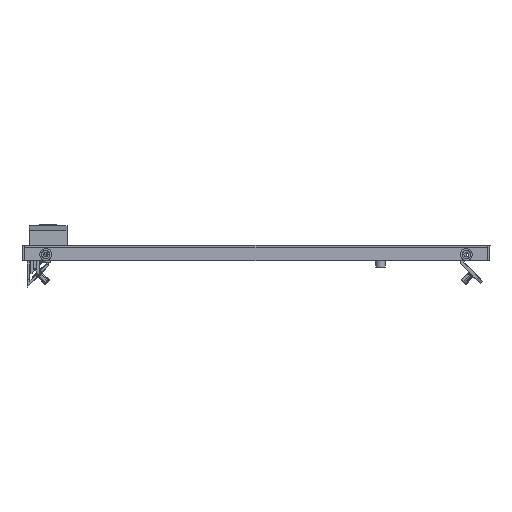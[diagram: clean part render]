
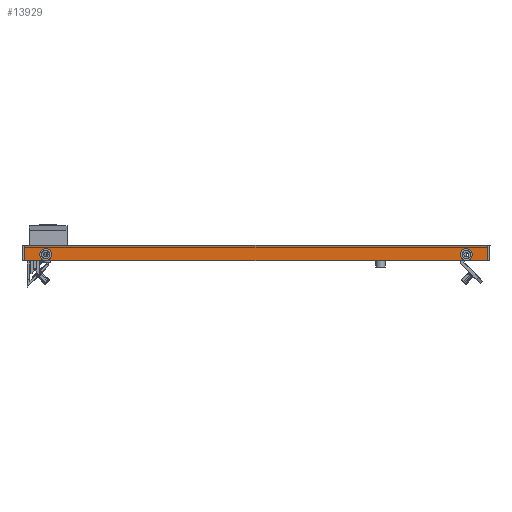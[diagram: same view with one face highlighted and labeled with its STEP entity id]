
A CAD part, front view. The second image highlights one B-rep face of the part: STEP entity #13929.
In plain terms, the highlighted planar face has unit normal (0, -1, 0).
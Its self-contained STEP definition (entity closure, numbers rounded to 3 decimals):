
#87 = DIRECTION ( 'NONE',  ( 1., 0., 0. ) ) ;
#1222 = DIRECTION ( 'NONE',  ( -0.886, 0., -0.463 ) ) ;
#1551 = DIRECTION ( 'NONE',  ( 0., 0., -1. ) ) ;
#1768 = ORIENTED_EDGE ( 'NONE', *, *, #25218, .T. ) ;
#2145 = CARTESIAN_POINT ( 'NONE',  ( -177.5, -995., -6.5 ) ) ;
#2418 = VERTEX_POINT ( 'NONE', #37016 ) ;
#2475 = VERTEX_POINT ( 'NONE', #6301 ) ;
#2742 = VERTEX_POINT ( 'NONE', #31016 ) ;
#3690 = LINE ( 'NONE', #27983, #19972 ) ;
#4191 = AXIS2_PLACEMENT_3D ( 'NONE', #25982, #7581, #32808 ) ;
#4888 = CARTESIAN_POINT ( 'NONE',  ( -177.5, -995., -1.5 ) ) ;
#6301 = CARTESIAN_POINT ( 'NONE',  ( -195.359, -995., 6.5 ) ) ;
#7234 = CARTESIAN_POINT ( 'NONE',  ( -177.5, -995., -1.5 ) ) ;
#7369 = VECTOR ( 'NONE', #23761, 1000. ) ;
#7564 = EDGE_CURVE ( 'NONE', #9338, #16939, #15546, .T. ) ;
#7581 = DIRECTION ( 'NONE',  ( 0., -1., 0. ) ) ;
#7645 = CARTESIAN_POINT ( 'NONE',  ( 173.069, -995., -3.816 ) ) ;
#8257 = CIRCLE ( 'NONE', #32231, 5. ) ;
#8529 = CIRCLE ( 'NONE', #4191, 5. ) ;
#8946 = EDGE_LOOP ( 'NONE', ( #37256, #12226, #35817, #11726, #33378, #21133, #33329, #19218, #29281, #18177, #1768, #26897 ) ) ;
#9338 = VERTEX_POINT ( 'NONE', #7645 ) ;
#10083 = DIRECTION ( 'NONE',  ( 0., 1., 0. ) ) ;
#10297 = PLANE ( 'NONE',  #23023 ) ;
#10382 = CARTESIAN_POINT ( 'NONE',  ( 177.5, -995., -1.5 ) ) ;
#11726 = ORIENTED_EDGE ( 'NONE', *, *, #43687, .T. ) ;
#12226 = ORIENTED_EDGE ( 'NONE', *, *, #30694, .F. ) ;
#13079 = CARTESIAN_POINT ( 'NONE',  ( 0., -995., -6.5 ) ) ;
#13248 = CARTESIAN_POINT ( 'NONE',  ( 195.359, -995., 6.5 ) ) ;
#13865 = VERTEX_POINT ( 'NONE', #13248 ) ;
#13929 = ADVANCED_FACE ( 'NONE', ( #41872 ), #10297, .F. ) ;
#14265 = LINE ( 'NONE', #41996, #15033 ) ;
#15033 = VECTOR ( 'NONE', #1551, 1000. ) ;
#15126 = VERTEX_POINT ( 'NONE', #28368 ) ;
#15546 = CIRCLE ( 'NONE', #43830, 5. ) ;
#15836 = DIRECTION ( 'NONE',  ( 0., 0., -1. ) ) ;
#16589 = CARTESIAN_POINT ( 'NONE',  ( 0., -995., -6.5 ) ) ;
#16690 = CARTESIAN_POINT ( 'NONE',  ( 177.5, -995., -6.5 ) ) ;
#16761 = DIRECTION ( 'NONE',  ( -0.949, 0., 0.314 ) ) ;
#16939 = VERTEX_POINT ( 'NONE', #16690 ) ;
#17075 = AXIS2_PLACEMENT_3D ( 'NONE', #43681, #22556, #1222 ) ;
#17626 = DIRECTION ( 'NONE',  ( -0.886, 0., -0.463 ) ) ;
#17666 = VECTOR ( 'NONE', #87, 1000. ) ;
#18177 = ORIENTED_EDGE ( 'NONE', *, *, #23265, .T. ) ;
#18682 = VERTEX_POINT ( 'NONE', #2145 ) ;
#19218 = ORIENTED_EDGE ( 'NONE', *, *, #39090, .T. ) ;
#19310 = EDGE_CURVE ( 'NONE', #44416, #18682, #41470, .T. ) ;
#19972 = VECTOR ( 'NONE', #25043, 1000. ) ;
#20878 = CARTESIAN_POINT ( 'NONE',  ( -195.359, -995., -6.5 ) ) ;
#21133 = ORIENTED_EDGE ( 'NONE', *, *, #22004, .F. ) ;
#21935 = DIRECTION ( 'NONE',  ( 0., -1., 0. ) ) ;
#22004 = EDGE_CURVE ( 'NONE', #2742, #9338, #8529, .T. ) ;
#22556 = DIRECTION ( 'NONE',  ( 0., -1., 0. ) ) ;
#22853 = AXIS2_PLACEMENT_3D ( 'NONE', #7234, #41770, #16761 ) ;
#23023 = AXIS2_PLACEMENT_3D ( 'NONE', #41202, #10083, #38474 ) ;
#23265 = EDGE_CURVE ( 'NONE', #13865, #2475, #3690, .T. ) ;
#23427 = LINE ( 'NONE', #16589, #29343 ) ;
#23761 = DIRECTION ( 'NONE',  ( 1., 0., 0. ) ) ;
#24375 = CIRCLE ( 'NONE', #17075, 5. ) ;
#25043 = DIRECTION ( 'NONE',  ( -1., 0., 0. ) ) ;
#25218 = EDGE_CURVE ( 'NONE', #2475, #44416, #14265, .T. ) ;
#25344 = EDGE_CURVE ( 'NONE', #13865, #2418, #44237, .T. ) ;
#25934 = AXIS2_PLACEMENT_3D ( 'NONE', #36500, #40120, #30123 ) ;
#25982 = CARTESIAN_POINT ( 'NONE',  ( 177.5, -995., -1.5 ) ) ;
#26836 = DIRECTION ( 'NONE',  ( 1., 0., 0. ) ) ;
#26897 = ORIENTED_EDGE ( 'NONE', *, *, #19310, .T. ) ;
#27983 = CARTESIAN_POINT ( 'NONE',  ( 0., -995., 6.5 ) ) ;
#28368 = CARTESIAN_POINT ( 'NONE',  ( -182.247, -995., 0.07 ) ) ;
#29281 = ORIENTED_EDGE ( 'NONE', *, *, #25344, .F. ) ;
#29343 = VECTOR ( 'NONE', #26836, 1000. ) ;
#30123 = DIRECTION ( 'NONE',  ( -0.949, 0., 0.314 ) ) ;
#30264 = CIRCLE ( 'NONE', #25934, 5. ) ;
#30369 = CARTESIAN_POINT ( 'NONE',  ( 195.359, -995., 4.5 ) ) ;
#30694 = EDGE_CURVE ( 'NONE', #34885, #15126, #8257, .T. ) ;
#31016 = CARTESIAN_POINT ( 'NONE',  ( 181.931, -995., 0.816 ) ) ;
#31056 = VECTOR ( 'NONE', #15836, 1000. ) ;
#31437 = CARTESIAN_POINT ( 'NONE',  ( 0., -995., -6.5 ) ) ;
#32231 = AXIS2_PLACEMENT_3D ( 'NONE', #4888, #21935, #32847 ) ;
#32808 = DIRECTION ( 'NONE',  ( -0.886, 0., -0.463 ) ) ;
#32847 = DIRECTION ( 'NONE',  ( -0.949, 0., 0.314 ) ) ;
#33329 = ORIENTED_EDGE ( 'NONE', *, *, #40234, .F. ) ;
#33378 = ORIENTED_EDGE ( 'NONE', *, *, #7564, .F. ) ;
#34885 = VERTEX_POINT ( 'NONE', #41758 ) ;
#35817 = ORIENTED_EDGE ( 'NONE', *, *, #44445, .F. ) ;
#36500 = CARTESIAN_POINT ( 'NONE',  ( -177.5, -995., -1.5 ) ) ;
#37016 = CARTESIAN_POINT ( 'NONE',  ( 195.359, -995., -6.5 ) ) ;
#37256 = ORIENTED_EDGE ( 'NONE', *, *, #41575, .F. ) ;
#37665 = DIRECTION ( 'NONE',  ( 0., -1., 0. ) ) ;
#38474 = DIRECTION ( 'NONE',  ( 0., 0., -1. ) ) ;
#39090 = EDGE_CURVE ( 'NONE', #16939, #2418, #23427, .T. ) ;
#40120 = DIRECTION ( 'NONE',  ( 0., -1., 0. ) ) ;
#40234 = EDGE_CURVE ( 'NONE', #16939, #2742, #24375, .T. ) ;
#40960 = CIRCLE ( 'NONE', #22853, 5. ) ;
#41202 = CARTESIAN_POINT ( 'NONE',  ( 0., -995., 6.5 ) ) ;
#41470 = LINE ( 'NONE', #13079, #7369 ) ;
#41575 = EDGE_CURVE ( 'NONE', #15126, #18682, #30264, .T. ) ;
#41758 = CARTESIAN_POINT ( 'NONE',  ( -172.753, -995., -3.07 ) ) ;
#41770 = DIRECTION ( 'NONE',  ( 0., -1., 0. ) ) ;
#41872 = FACE_OUTER_BOUND ( 'NONE', #8946, .T. ) ;
#41996 = CARTESIAN_POINT ( 'NONE',  ( -195.359, -995., 6.5 ) ) ;
#43681 = CARTESIAN_POINT ( 'NONE',  ( 177.5, -995., -1.5 ) ) ;
#43687 = EDGE_CURVE ( 'NONE', #18682, #16939, #44860, .T. ) ;
#43830 = AXIS2_PLACEMENT_3D ( 'NONE', #10382, #37665, #17626 ) ;
#44237 = LINE ( 'NONE', #30369, #31056 ) ;
#44416 = VERTEX_POINT ( 'NONE', #20878 ) ;
#44445 = EDGE_CURVE ( 'NONE', #18682, #34885, #40960, .T. ) ;
#44860 = LINE ( 'NONE', #31437, #17666 ) ;
